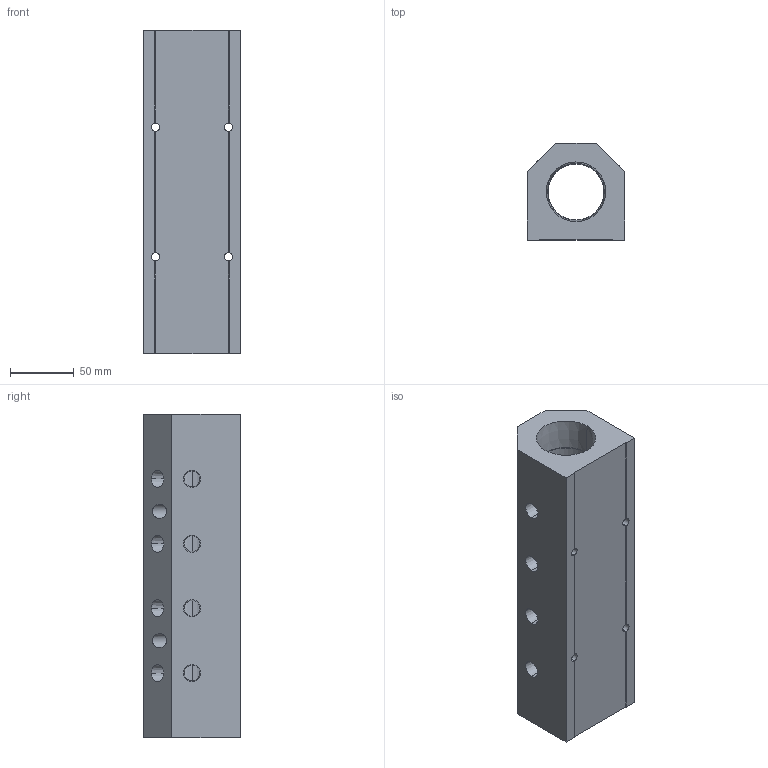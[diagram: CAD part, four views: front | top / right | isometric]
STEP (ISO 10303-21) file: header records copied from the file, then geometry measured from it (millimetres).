
FILE_DESCRIPTION (( 'STEP AP214' ), '1' );
FILE_NAME ('ALM4AB-N4N24-254R.step', '2022-02-07T07:39:37', ( '' ), ( '' ), 'SwSTEP 2.0', 'SolidWorks 2020', '' );
FILE_SCHEMA (( 'AUTOMOTIVE_DESIGN' ));
Length unit declared in the file: millimetre
Products named in the file (1): ALM4AB-N4N24-254R
Bounding box: 76.2 x 76.2 x 254 mm (x, y, z)
Volume: 922204.5 mm3; surface area: 122312.1 mm2
Topology: 1 solids, 1 shells, 324 faces, 860 edges, 568 vertices
Faces by surface type: plane 246, bspline 40, cone 20, cylinder 18
Entity records: 16440 total; most frequent: CARTESIAN_POINT 5585, ORIENTED_EDGE 1720, DIRECTION 1370, EDGE_CURVE 860, VECTOR 696, LINE 696, VERTEX_POINT 568, EDGE_LOOP 380
